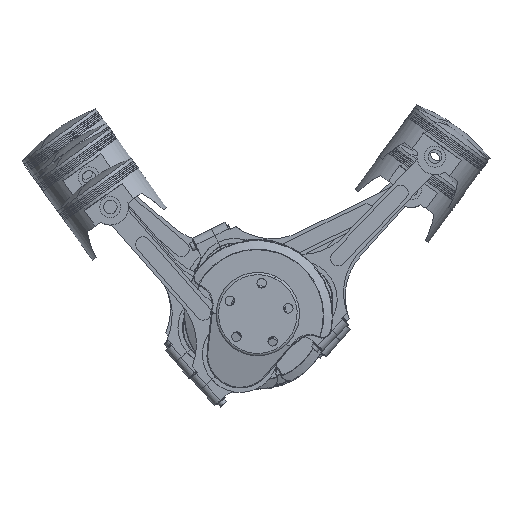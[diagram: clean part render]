
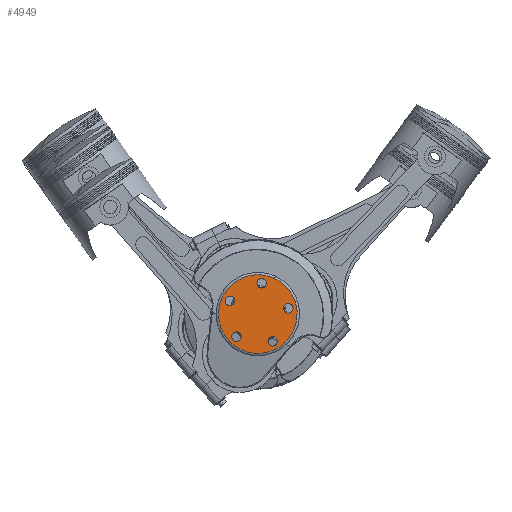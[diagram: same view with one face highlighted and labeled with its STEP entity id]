
A CAD part, front view. The second image highlights one B-rep face of the part: STEP entity #4949.
In plain terms, the highlighted planar face has unit normal (0, -1, 0).
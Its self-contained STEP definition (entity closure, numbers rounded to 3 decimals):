
#4678=CARTESIAN_POINT('Vertex',(96.97,-63.528,0.)) ;
#4685=CARTESIAN_POINT('Vertex',(30.97,-63.528,0.)) ;
#4688=CARTESIAN_POINT('Axis2P3D Location',(63.97,-63.528,0.)) ;
#4705=CARTESIAN_POINT('Axis2P3D Location',(63.97,-63.528,0.)) ;
#4726=CARTESIAN_POINT('Vertex',(67.97,-63.528,26.)) ;
#4731=CARTESIAN_POINT('Axis2P3D Location',(63.97,-63.528,26.)) ;
#4735=CARTESIAN_POINT('Vertex',(59.97,-63.528,26.)) ;
#4757=CARTESIAN_POINT('Axis2P3D Location',(63.97,-63.528,26.)) ;
#4864=CARTESIAN_POINT('Axis2P3D Location',(0.,-63.528,0.)) ;
#4877=CARTESIAN_POINT('Axis2P3D Location',(39.243,-63.528,8.034)) ;
#4881=CARTESIAN_POINT('Vertex',(40.479,-63.528,11.839)) ;
#4883=CARTESIAN_POINT('Vertex',(38.007,-63.528,4.23)) ;
#4886=CARTESIAN_POINT('Axis2P3D Location',(39.243,-63.528,8.034)) ;
#4895=CARTESIAN_POINT('Axis2P3D Location',(48.688,-63.528,-21.034)) ;
#4899=CARTESIAN_POINT('Vertex',(45.452,-63.528,-18.683)) ;
#4901=CARTESIAN_POINT('Vertex',(51.924,-63.528,-23.386)) ;
#4904=CARTESIAN_POINT('Axis2P3D Location',(48.688,-63.528,-21.034)) ;
#4913=CARTESIAN_POINT('Axis2P3D Location',(79.253,-63.528,-21.034)) ;
#4917=CARTESIAN_POINT('Vertex',(76.016,-63.528,-23.386)) ;
#4919=CARTESIAN_POINT('Vertex',(82.489,-63.528,-18.683)) ;
#4922=CARTESIAN_POINT('Axis2P3D Location',(79.253,-63.528,-21.034)) ;
#4931=CARTESIAN_POINT('Axis2P3D Location',(88.698,-63.528,8.034)) ;
#4935=CARTESIAN_POINT('Vertex',(89.934,-63.528,4.23)) ;
#4937=CARTESIAN_POINT('Vertex',(87.462,-63.528,11.839)) ;
#4940=CARTESIAN_POINT('Axis2P3D Location',(88.698,-63.528,8.034)) ;
#4689=DIRECTION('Axis2P3D Direction',(0.,-1.,-0.)) ;
#4706=DIRECTION('Axis2P3D Direction',(-0.,-1.,0.)) ;
#4732=DIRECTION('Axis2P3D Direction',(0.,-1.,0.)) ;
#4758=DIRECTION('Axis2P3D Direction',(0.,-1.,0.)) ;
#4865=DIRECTION('Axis2P3D Direction',(0.,-1.,0.)) ;
#4866=DIRECTION('Axis2P3D XDirection',(1.,0.,0.)) ;
#4878=DIRECTION('Axis2P3D Direction',(0.,-1.,0.)) ;
#4887=DIRECTION('Axis2P3D Direction',(0.,-1.,0.)) ;
#4896=DIRECTION('Axis2P3D Direction',(0.,-1.,0.)) ;
#4905=DIRECTION('Axis2P3D Direction',(0.,-1.,0.)) ;
#4914=DIRECTION('Axis2P3D Direction',(0.,-1.,0.)) ;
#4923=DIRECTION('Axis2P3D Direction',(0.,-1.,0.)) ;
#4932=DIRECTION('Axis2P3D Direction',(0.,-1.,0.)) ;
#4941=DIRECTION('Axis2P3D Direction',(0.,-1.,0.)) ;
#4690=AXIS2_PLACEMENT_3D('Circle Axis2P3D',#4688,#4689,$) ;
#4707=AXIS2_PLACEMENT_3D('Circle Axis2P3D',#4705,#4706,$) ;
#4733=AXIS2_PLACEMENT_3D('Circle Axis2P3D',#4731,#4732,$) ;
#4759=AXIS2_PLACEMENT_3D('Circle Axis2P3D',#4757,#4758,$) ;
#4867=AXIS2_PLACEMENT_3D('Plane Axis2P3D',#4864,#4865,#4866) ;
#4879=AXIS2_PLACEMENT_3D('Circle Axis2P3D',#4877,#4878,$) ;
#4888=AXIS2_PLACEMENT_3D('Circle Axis2P3D',#4886,#4887,$) ;
#4897=AXIS2_PLACEMENT_3D('Circle Axis2P3D',#4895,#4896,$) ;
#4906=AXIS2_PLACEMENT_3D('Circle Axis2P3D',#4904,#4905,$) ;
#4915=AXIS2_PLACEMENT_3D('Circle Axis2P3D',#4913,#4914,$) ;
#4924=AXIS2_PLACEMENT_3D('Circle Axis2P3D',#4922,#4923,$) ;
#4933=AXIS2_PLACEMENT_3D('Circle Axis2P3D',#4931,#4932,$) ;
#4942=AXIS2_PLACEMENT_3D('Circle Axis2P3D',#4940,#4941,$) ;
#4870=ORIENTED_EDGE('',*,*,#4692,.T.) ;
#4871=ORIENTED_EDGE('',*,*,#4709,.T.) ;
#4874=ORIENTED_EDGE('',*,*,#4737,.F.) ;
#4875=ORIENTED_EDGE('',*,*,#4761,.F.) ;
#4892=ORIENTED_EDGE('',*,*,#4885,.F.) ;
#4893=ORIENTED_EDGE('',*,*,#4890,.F.) ;
#4910=ORIENTED_EDGE('',*,*,#4903,.F.) ;
#4911=ORIENTED_EDGE('',*,*,#4908,.F.) ;
#4928=ORIENTED_EDGE('',*,*,#4921,.F.) ;
#4929=ORIENTED_EDGE('',*,*,#4926,.F.) ;
#4946=ORIENTED_EDGE('',*,*,#4939,.F.) ;
#4947=ORIENTED_EDGE('',*,*,#4944,.F.) ;
#4876=FACE_BOUND('',#4873,.T.) ;
#4894=FACE_BOUND('',#4891,.T.) ;
#4912=FACE_BOUND('',#4909,.T.) ;
#4930=FACE_BOUND('',#4927,.T.) ;
#4948=FACE_BOUND('',#4945,.T.) ;
#4949=ADVANCED_FACE('PartBody',(#4872,#4876,#4894,#4912,#4930,#4948),#4868,.T.) ;
#4691=CIRCLE('generated circle',#4690,33.) ;
#4708=CIRCLE('generated circle',#4707,33.) ;
#4734=CIRCLE('generated circle',#4733,4.) ;
#4760=CIRCLE('generated circle',#4759,4.) ;
#4880=CIRCLE('generated circle',#4879,4.) ;
#4889=CIRCLE('generated circle',#4888,4.) ;
#4898=CIRCLE('generated circle',#4897,4.) ;
#4907=CIRCLE('generated circle',#4906,4.) ;
#4916=CIRCLE('generated circle',#4915,4.) ;
#4925=CIRCLE('generated circle',#4924,4.) ;
#4934=CIRCLE('generated circle',#4933,4.) ;
#4943=CIRCLE('generated circle',#4942,4.) ;
#4692=EDGE_CURVE('',#4679,#4686,#4691,.T.) ;
#4709=EDGE_CURVE('',#4686,#4679,#4708,.T.) ;
#4737=EDGE_CURVE('',#4727,#4736,#4734,.T.) ;
#4761=EDGE_CURVE('',#4736,#4727,#4760,.T.) ;
#4885=EDGE_CURVE('',#4882,#4884,#4880,.T.) ;
#4890=EDGE_CURVE('',#4884,#4882,#4889,.T.) ;
#4903=EDGE_CURVE('',#4900,#4902,#4898,.T.) ;
#4908=EDGE_CURVE('',#4902,#4900,#4907,.T.) ;
#4921=EDGE_CURVE('',#4918,#4920,#4916,.T.) ;
#4926=EDGE_CURVE('',#4920,#4918,#4925,.T.) ;
#4939=EDGE_CURVE('',#4936,#4938,#4934,.T.) ;
#4944=EDGE_CURVE('',#4938,#4936,#4943,.T.) ;
#4869=EDGE_LOOP('',(#4870,#4871)) ;
#4873=EDGE_LOOP('',(#4874,#4875)) ;
#4891=EDGE_LOOP('',(#4892,#4893)) ;
#4909=EDGE_LOOP('',(#4910,#4911)) ;
#4927=EDGE_LOOP('',(#4928,#4929)) ;
#4945=EDGE_LOOP('',(#4946,#4947)) ;
#4872=FACE_OUTER_BOUND('',#4869,.T.) ;
#4868=PLANE('Plane',#4867) ;
#4679=VERTEX_POINT('',#4678) ;
#4686=VERTEX_POINT('',#4685) ;
#4727=VERTEX_POINT('',#4726) ;
#4736=VERTEX_POINT('',#4735) ;
#4882=VERTEX_POINT('',#4881) ;
#4884=VERTEX_POINT('',#4883) ;
#4900=VERTEX_POINT('',#4899) ;
#4902=VERTEX_POINT('',#4901) ;
#4918=VERTEX_POINT('',#4917) ;
#4920=VERTEX_POINT('',#4919) ;
#4936=VERTEX_POINT('',#4935) ;
#4938=VERTEX_POINT('',#4937) ;
